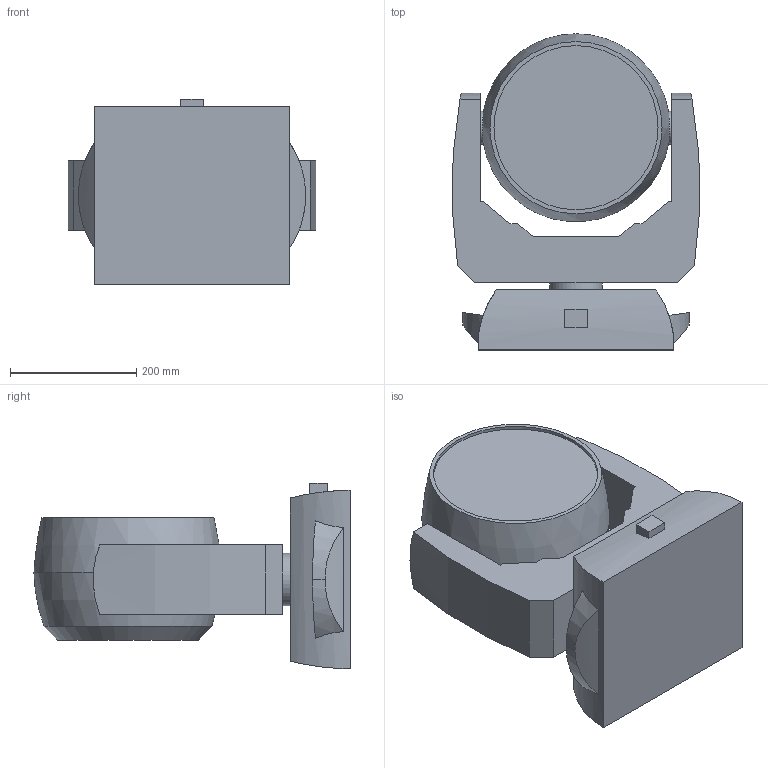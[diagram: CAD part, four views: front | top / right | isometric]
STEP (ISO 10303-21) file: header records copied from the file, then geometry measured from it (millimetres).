
FILE_DESCRIPTION(/* description */ (''),/* implementation_level */ '2;1');
FILE_NAME(/* name */ 'C:\Users\dgooch\Documents\CADENG\PRO\Rogue R3X Wash\Rogue R3X Wash_3D_CAD\Rogue R3X Wash_90.stp',/* time_stamp */ '2022-03-28T09:45:35-04:00',/* author */ ('dgooch'),/* organization */ (''),/* preprocessor_version */ 'ST-DEVELOPER v18.1',/* originating_system */ 'Autodesk Inventor 2022',/* authorisation */ '');
FILE_SCHEMA (('AUTOMOTIVE_DESIGN { 1 0 10303 214 3 1 1 }'));
Length unit declared in the file: millimetre
Products named in the file (4): Rogue R3X Wash_90; Head (1); Arm (1); Base (1)
Assembly tree (3 placements, depth 2):
  Rogue R3X Wash_90
    Head (1)
    Arm (1)
    Base (1)
Bounding box: 392.23 x 501.4 x 293.87 mm (x, y, z)
Volume: 25496233.3 mm3; surface area: 943358.9 mm2
Topology: 3 solids, 3 shells, 52 faces, 124 edges, 82 vertices
Faces by surface type: plane 30, cylinder 19, bspline 2, cone 1
Full cylindrical faces by diameter (mm): 52 x2, 83 x2, 260.299 x1
Entity records: 1982 total; most frequent: CARTESIAN_POINT 615, ORIENTED_EDGE 248, DIRECTION 246, EDGE_CURVE 124, AXIS2_PLACEMENT_3D 85, VERTEX_POINT 82, LINE 76, VECTOR 76
